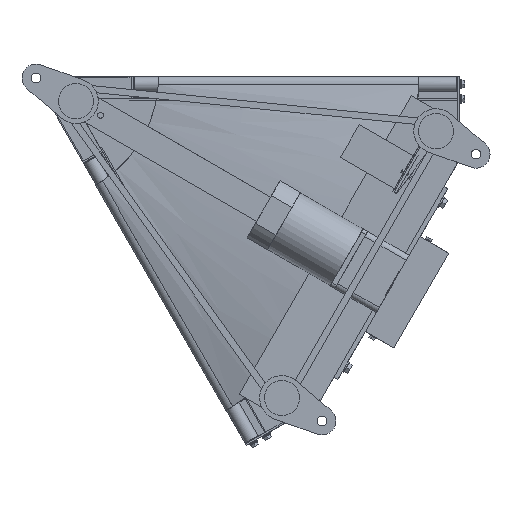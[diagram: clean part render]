
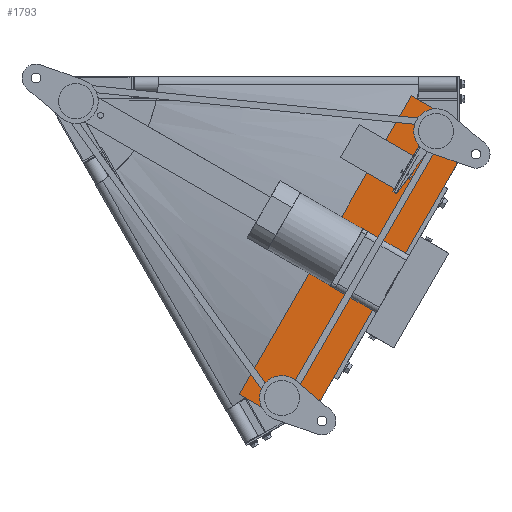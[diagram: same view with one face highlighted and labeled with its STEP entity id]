
A CAD part, front view. The second image highlights one B-rep face of the part: STEP entity #1793.
In plain terms, the highlighted planar face has unit normal (0, -1, 0).
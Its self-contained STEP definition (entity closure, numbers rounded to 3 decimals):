
#1793=ADVANCED_FACE('',(#6048),#6047,.T.);
#6047=PLANE('',#17111);
#6048=FACE_OUTER_BOUND('',#17112,.T.);
#17108=CARTESIAN_POINT('',(269.887,-167.5,-15.916));
#17109=DIRECTION('',(0.,-1.,0.));
#17110=DIRECTION('',(0.,0.,-1.));
#17111=AXIS2_PLACEMENT_3D('',#17108,#17109,#17110);
#17112=EDGE_LOOP('',(#22527,#22528,#22529,#22530,#22531,#22532));
#22527=ORIENTED_EDGE('',*,*,#26768,.T.);
#22528=ORIENTED_EDGE('',*,*,#26769,.F.);
#22529=ORIENTED_EDGE('',*,*,#26764,.T.);
#22530=ORIENTED_EDGE('',*,*,#26770,.F.);
#22531=ORIENTED_EDGE('',*,*,#26771,.F.);
#22532=ORIENTED_EDGE('',*,*,#26772,.F.);
#26764=EDGE_CURVE('',#33934,#33949,#33956,.T.);
#26768=EDGE_CURVE('',#33962,#33977,#33984,.T.);
#26769=EDGE_CURVE('',#33934,#33977,#33990,.T.);
#26770=EDGE_CURVE('',#33996,#33949,#33997,.T.);
#26771=EDGE_CURVE('',#34003,#33996,#34004,.T.);
#26772=EDGE_CURVE('',#33962,#34003,#34010,.T.);
#33934=VERTEX_POINT('',#49736);
#33949=VERTEX_POINT('',#49745);
#33956=LINE('',#49749,#49750);
#33962=VERTEX_POINT('',#49752);
#33977=VERTEX_POINT('',#49761);
#33984=LINE('',#49765,#49766);
#33990=LINE('',#49768,#49769);
#33996=VERTEX_POINT('',#49771);
#33997=LINE('',#49772,#49773);
#34003=VERTEX_POINT('',#49775);
#34004=LINE('',#49776,#49777);
#34010=LINE('',#49779,#49780);
#49736=CARTESIAN_POINT('',(576.49,-167.5,-119.217));
#49745=CARTESIAN_POINT('',(575.509,-167.5,-60.916));
#49749=CARTESIAN_POINT('',(576.49,-167.5,-119.217));
#49750=VECTOR('',#49751,58.31);
#49751=DIRECTION('',(-0.017,0.,1.));
#49752=CARTESIAN_POINT('',(340.509,-167.5,-467.948));
#49761=CARTESIAN_POINT('',(391.49,-167.5,-439.646));
#49765=CARTESIAN_POINT('',(340.509,-167.5,-467.948));
#49766=VECTOR('',#49767,58.31);
#49767=DIRECTION('',(0.874,0.,0.485));
#49768=CARTESIAN_POINT('',(576.49,-167.5,-119.217));
#49769=VECTOR('',#49770,370.);
#49770=DIRECTION('',(-0.5,0.,-0.866));
#49771=CARTESIAN_POINT('',(514.887,-167.5,-25.916));
#49772=CARTESIAN_POINT('',(514.887,-167.5,-25.916));
#49773=VECTOR('',#49774,70.);
#49774=DIRECTION('',(0.866,0.,-0.5));
#49775=CARTESIAN_POINT('',(279.887,-167.5,-432.948));
#49776=CARTESIAN_POINT('',(279.887,-167.5,-432.948));
#49777=VECTOR('',#49778,470.);
#49778=DIRECTION('',(0.5,0.,0.866));
#49779=CARTESIAN_POINT('',(340.509,-167.5,-467.948));
#49780=VECTOR('',#49781,70.);
#49781=DIRECTION('',(-0.866,0.,0.5));
